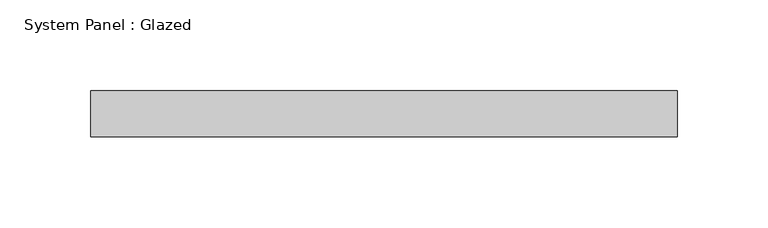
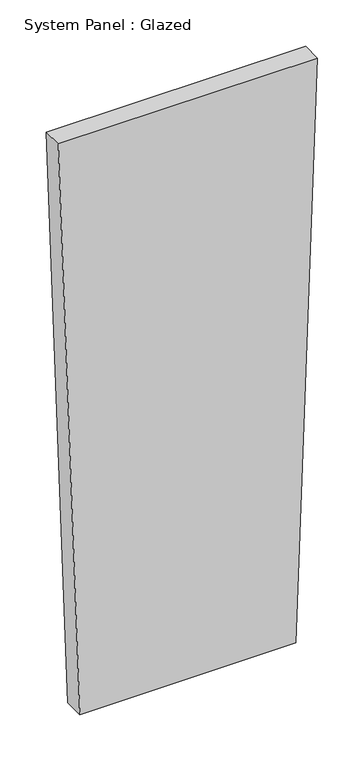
"""IFC4 building model written with IfcOpenShell, lengths in millimetres: plate geometry, System Panel : Glazed."""

from ifc_helpers import new_model, si_unit, frame, origin, place, context, project, spatial, polyline, outline, extrude, source, transform, mapped, element, save


def system_panel_glazed_5a92f5fe(model_context):
    return source(origin(), model_context, "Body", "SweptSolid", [
        extrude(outline(polyline([(0.0, -134.6672172), (0.0, 134.6672172), (761.5238602, 161.6006606), (761.5238602, -161.6006606), (0.0, -134.6672172)])), frame((0.0, -44.45, 0.0), z_axis=(0.0, 1.0, 0.0), x_axis=(0.0, 0.0, 1.0)), (0.0, 0.0, 1.0), 25.4),
    ])


if __name__ == "__main__":
    model = new_model("IFC4")
    model_context = context("Model", 3, world=origin())
    ifc_project = project(units=[si_unit("LENGTHUNIT", "METRE", prefix="MILLI")], contexts=[model_context])
    site = spatial("IfcSite", under=ifc_project)
    building = spatial("IfcBuilding", under=site)
    placement = place(None, origin())
    system_panel_glazed_shape = system_panel_glazed_5a92f5fe(model_context)
    element("IfcPlate", 1, ObjectType="System Panel : Glazed", at=placement, inside=building, context=model_context, shape_type="MappedRepresentation", body=[
        mapped(system_panel_glazed_shape, transform((0.0, 0.0, 0.0), x_axis=(1.0, 0.0, 0.0), y_axis=(0.0, 1.0, 0.0), z_axis=(0.0, 0.0, 1.0))),
    ])
    save(model, "model.ifc")
